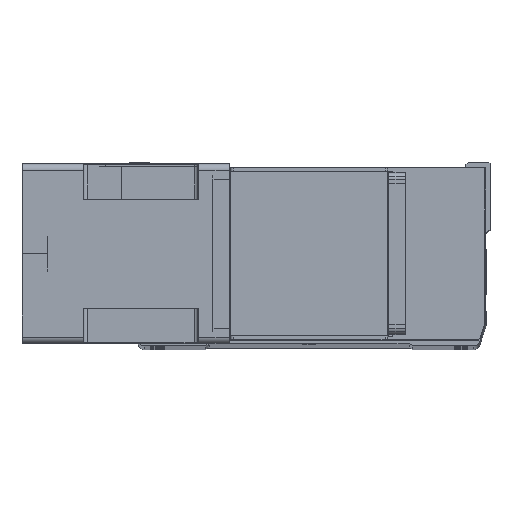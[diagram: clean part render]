
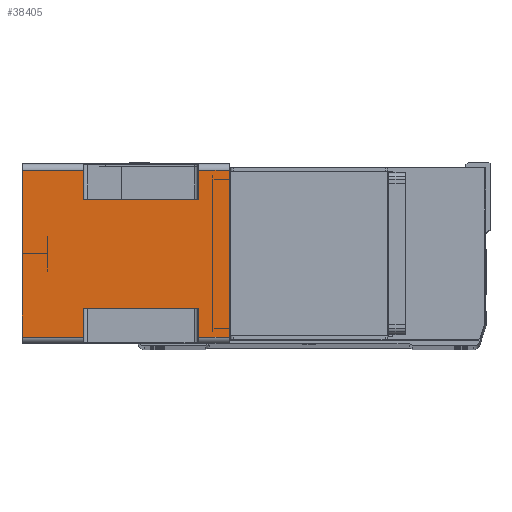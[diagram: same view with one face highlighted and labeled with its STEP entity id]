
A CAD part, top view. The second image highlights one B-rep face of the part: STEP entity #38405.
In plain terms, the highlighted planar face has unit normal (0, 0, 1) as drawn and (-1, 0, 0) by its records, which use the part's own axes.
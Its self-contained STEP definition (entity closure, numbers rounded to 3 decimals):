
#505 = VERTEX_POINT ( 'NONE', #38080 ) ;
#767 = VECTOR ( 'NONE', #43116, 1000. ) ;
#834 = DIRECTION ( 'NONE',  ( 0., 1., 0. ) ) ;
#939 = LINE ( 'NONE', #31024, #6393 ) ;
#1913 = CARTESIAN_POINT ( 'NONE',  ( -71., -43., -115.5 ) ) ;
#1927 = PLANE ( 'NONE',  #7781 ) ;
#2509 = ORIENTED_EDGE ( 'NONE', *, *, #32139, .T. ) ;
#3099 = VERTEX_POINT ( 'NONE', #25391 ) ;
#3221 = CARTESIAN_POINT ( 'NONE',  ( -71., -66., -164. ) ) ;
#4746 = EDGE_CURVE ( 'NONE', #37021, #505, #18477, .T. ) ;
#5395 = CARTESIAN_POINT ( 'NONE',  ( -71., 66., -164. ) ) ;
#6246 = CARTESIAN_POINT ( 'NONE',  ( -71., -66., -164. ) ) ;
#6383 = ORIENTED_EDGE ( 'NONE', *, *, #37154, .T. ) ;
#6393 = VECTOR ( 'NONE', #35140, 1000. ) ;
#6401 = EDGE_CURVE ( 'NONE', #43043, #31925, #36725, .T. ) ;
#7435 = VERTEX_POINT ( 'NONE', #15074 ) ;
#7645 = LINE ( 'NONE', #19336, #33389 ) ;
#7781 = AXIS2_PLACEMENT_3D ( 'NONE', #3221, #27725, #41980 ) ;
#8136 = EDGE_CURVE ( 'NONE', #505, #43043, #13464, .T. ) ;
#9078 = DIRECTION ( 'NONE',  ( 0., 0., 1. ) ) ;
#9177 = EDGE_CURVE ( 'NONE', #14522, #3099, #14456, .T. ) ;
#9924 = VECTOR ( 'NONE', #33169, 1000. ) ;
#10810 = FACE_OUTER_BOUND ( 'NONE', #20840, .T. ) ;
#11276 = ORIENTED_EDGE ( 'NONE', *, *, #41195, .T. ) ;
#12016 = VERTEX_POINT ( 'NONE', #23893 ) ;
#12076 = EDGE_CURVE ( 'NONE', #20565, #7435, #939, .T. ) ;
#13464 = LINE ( 'NONE', #6246, #21678 ) ;
#13492 = CARTESIAN_POINT ( 'NONE',  ( -71., -66., -24.5 ) ) ;
#14456 = LINE ( 'NONE', #18562, #767 ) ;
#14522 = VERTEX_POINT ( 'NONE', #38816 ) ;
#14573 = LINE ( 'NONE', #20494, #23877 ) ;
#14731 = CARTESIAN_POINT ( 'NONE',  ( -71., -43., -24.5 ) ) ;
#14908 = VECTOR ( 'NONE', #9078, 1000. ) ;
#15048 = CARTESIAN_POINT ( 'NONE',  ( -71., 66., 0. ) ) ;
#15074 = CARTESIAN_POINT ( 'NONE',  ( -71., -66., 0. ) ) ;
#15406 = VERTEX_POINT ( 'NONE', #16624 ) ;
#15582 = EDGE_CURVE ( 'NONE', #12016, #20565, #33736, .T. ) ;
#15675 = DIRECTION ( 'NONE',  ( 0., -1., 0. ) ) ;
#15778 = EDGE_CURVE ( 'NONE', #14522, #15406, #14573, .T. ) ;
#16573 = CARTESIAN_POINT ( 'NONE',  ( -71., -66., -164. ) ) ;
#16624 = CARTESIAN_POINT ( 'NONE',  ( -71., 43., -24.5 ) ) ;
#18005 = EDGE_CURVE ( 'NONE', #42316, #31925, #42477, .T. ) ;
#18009 = ORIENTED_EDGE ( 'NONE', *, *, #12076, .F. ) ;
#18477 = LINE ( 'NONE', #26825, #45414 ) ;
#18562 = CARTESIAN_POINT ( 'NONE',  ( -71., -66., -115.5 ) ) ;
#18597 = CARTESIAN_POINT ( 'NONE',  ( -71., -43., -164. ) ) ;
#19336 = CARTESIAN_POINT ( 'NONE',  ( -71., 43., -24.5 ) ) ;
#20040 = ORIENTED_EDGE ( 'NONE', *, *, #9177, .T. ) ;
#20494 = CARTESIAN_POINT ( 'NONE',  ( -71., 43., -164. ) ) ;
#20565 = VERTEX_POINT ( 'NONE', #15048 ) ;
#20840 = EDGE_LOOP ( 'NONE', ( #36787, #37910, #27957, #6383, #2509, #18009, #25027, #11276, #43401, #20040, #37247, #36859 ) ) ;
#21429 = LINE ( 'NONE', #39196, #9924 ) ;
#21678 = VECTOR ( 'NONE', #34098, 1000. ) ;
#23770 = CARTESIAN_POINT ( 'NONE',  ( -71., -66., -115.5 ) ) ;
#23877 = VECTOR ( 'NONE', #30782, 1000. ) ;
#23893 = CARTESIAN_POINT ( 'NONE',  ( -71., 66., -24.5 ) ) ;
#25027 = ORIENTED_EDGE ( 'NONE', *, *, #15582, .F. ) ;
#25391 = CARTESIAN_POINT ( 'NONE',  ( -71., 66., -115.5 ) ) ;
#26273 = DIRECTION ( 'NONE',  ( 0., 0., -1. ) ) ;
#26424 = LINE ( 'NONE', #16573, #14908 ) ;
#26825 = CARTESIAN_POINT ( 'NONE',  ( -71., -66., -164. ) ) ;
#27595 = DIRECTION ( 'NONE',  ( 0., -1., 0. ) ) ;
#27725 = DIRECTION ( 'NONE',  ( -1., 0., 0. ) ) ;
#27957 = ORIENTED_EDGE ( 'NONE', *, *, #18005, .F. ) ;
#29418 = CARTESIAN_POINT ( 'NONE',  ( -71., 66., -164. ) ) ;
#30782 = DIRECTION ( 'NONE',  ( 0., 0., 1. ) ) ;
#31024 = CARTESIAN_POINT ( 'NONE',  ( -71., -66., 0. ) ) ;
#31925 = VERTEX_POINT ( 'NONE', #1913 ) ;
#32139 = EDGE_CURVE ( 'NONE', #39600, #7435, #26424, .T. ) ;
#32544 = EDGE_CURVE ( 'NONE', #37021, #3099, #21429, .T. ) ;
#33169 = DIRECTION ( 'NONE',  ( 0., 0., 1. ) ) ;
#33389 = VECTOR ( 'NONE', #15675, 1000. ) ;
#33736 = LINE ( 'NONE', #29418, #39786 ) ;
#34098 = DIRECTION ( 'NONE',  ( 0., 0., 1. ) ) ;
#34099 = VECTOR ( 'NONE', #27595, 1000. ) ;
#35140 = DIRECTION ( 'NONE',  ( 0., -1., 0. ) ) ;
#36725 = LINE ( 'NONE', #42811, #43348 ) ;
#36787 = ORIENTED_EDGE ( 'NONE', *, *, #8136, .T. ) ;
#36859 = ORIENTED_EDGE ( 'NONE', *, *, #4746, .T. ) ;
#37021 = VERTEX_POINT ( 'NONE', #5395 ) ;
#37154 = EDGE_CURVE ( 'NONE', #42316, #39600, #43500, .T. ) ;
#37247 = ORIENTED_EDGE ( 'NONE', *, *, #32544, .F. ) ;
#37910 = ORIENTED_EDGE ( 'NONE', *, *, #6401, .T. ) ;
#38080 = CARTESIAN_POINT ( 'NONE',  ( -71., -66., -164. ) ) ;
#38405 = ADVANCED_FACE ( 'NONE', ( #10810 ), #1927, .T. ) ;
#38816 = CARTESIAN_POINT ( 'NONE',  ( -71., 43., -115.5 ) ) ;
#39196 = CARTESIAN_POINT ( 'NONE',  ( -71., 66., -164. ) ) ;
#39600 = VERTEX_POINT ( 'NONE', #43218 ) ;
#39694 = DIRECTION ( 'NONE',  ( 0., 0., 1. ) ) ;
#39786 = VECTOR ( 'NONE', #39694, 1000. ) ;
#41195 = EDGE_CURVE ( 'NONE', #12016, #15406, #7645, .T. ) ;
#41980 = DIRECTION ( 'NONE',  ( 0., -1., 0. ) ) ;
#42316 = VERTEX_POINT ( 'NONE', #14731 ) ;
#42477 = LINE ( 'NONE', #18597, #43601 ) ;
#42811 = CARTESIAN_POINT ( 'NONE',  ( -71., -43., -115.5 ) ) ;
#43043 = VERTEX_POINT ( 'NONE', #23770 ) ;
#43116 = DIRECTION ( 'NONE',  ( 0., 1., 0. ) ) ;
#43218 = CARTESIAN_POINT ( 'NONE',  ( -71., -66., -24.5 ) ) ;
#43348 = VECTOR ( 'NONE', #834, 1000. ) ;
#43401 = ORIENTED_EDGE ( 'NONE', *, *, #15778, .F. ) ;
#43500 = LINE ( 'NONE', #13492, #34099 ) ;
#43601 = VECTOR ( 'NONE', #26273, 1000. ) ;
#44645 = DIRECTION ( 'NONE',  ( 0., -1., 0. ) ) ;
#45414 = VECTOR ( 'NONE', #44645, 1000. ) ;
